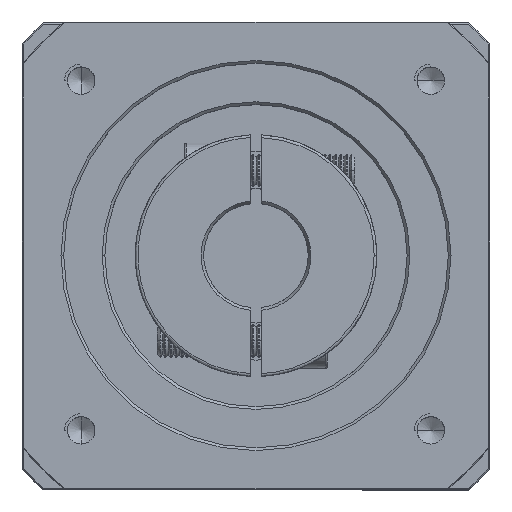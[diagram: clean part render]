
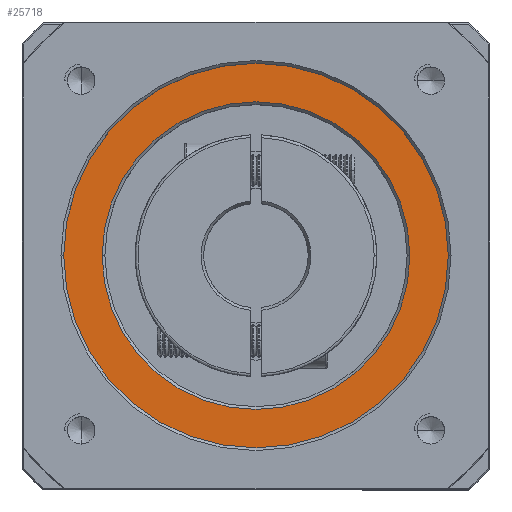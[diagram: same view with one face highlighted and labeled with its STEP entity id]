
A CAD part, top view. The second image highlights one B-rep face of the part: STEP entity #25718.
In plain terms, the highlighted planar face has unit normal (0, 0, 1).
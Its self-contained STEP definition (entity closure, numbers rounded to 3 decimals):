
#196 = ORIENTED_EDGE ( 'NONE', *, *, #50385, .T. ) ;
#872 = DIRECTION ( 'NONE',  ( 1., 0., 0. ) ) ;
#2071 = DIRECTION ( 'NONE',  ( 0., 0., 1. ) ) ;
#4819 = ORIENTED_EDGE ( 'NONE', *, *, #24245, .T. ) ;
#6108 = DIRECTION ( 'NONE',  ( 1., 0., 0. ) ) ;
#7117 = FACE_OUTER_BOUND ( 'NONE', #93286, .T. ) ;
#13321 = CARTESIAN_POINT ( 'NONE',  ( -120.814, 19.007, 12.467 ) ) ;
#13842 = EDGE_CURVE ( 'NONE', #93408, #50493, #73103, .T. ) ;
#17184 = DIRECTION ( 'NONE',  ( 0., 0., 1. ) ) ;
#18647 = CARTESIAN_POINT ( 'NONE',  ( -64.814, 19.007, 12.467 ) ) ;
#21912 = CIRCLE ( 'NONE', #83009, 35. ) ;
#24245 = EDGE_CURVE ( 'NONE', #80121, #89385, #45973, .T. ) ;
#24520 = CIRCLE ( 'NONE', #79282, 28. ) ;
#25718 = ADVANCED_FACE ( 'NONE', ( #7117, #53485 ), #85959, .T. ) ;
#45973 = CIRCLE ( 'NONE', #54529, 28. ) ;
#46375 = CARTESIAN_POINT ( 'NONE',  ( -92.814, 19.007, 12.467 ) ) ;
#50385 = EDGE_CURVE ( 'NONE', #89385, #80121, #24520, .T. ) ;
#50493 = VERTEX_POINT ( 'NONE', #99128 ) ;
#51940 = EDGE_CURVE ( 'NONE', #50493, #93408, #21912, .T. ) ;
#52789 = CARTESIAN_POINT ( 'NONE',  ( -127.814, 19.007, 12.467 ) ) ;
#53153 = DIRECTION ( 'NONE',  ( 0., 0., 1. ) ) ;
#53485 = FACE_BOUND ( 'NONE', #107911, .T. ) ;
#54320 = CARTESIAN_POINT ( 'NONE',  ( -92.814, 19.007, 12.467 ) ) ;
#54529 = AXIS2_PLACEMENT_3D ( 'NONE', #109388, #58265, #6108 ) ;
#55074 = DIRECTION ( 'NONE',  ( 1., 0., 0. ) ) ;
#58265 = DIRECTION ( 'NONE',  ( 0., 0., -1. ) ) ;
#62939 = DIRECTION ( 'NONE',  ( 1., 0., 0. ) ) ;
#69137 = CARTESIAN_POINT ( 'NONE',  ( -92.814, 19.007, 12.467 ) ) ;
#73103 = CIRCLE ( 'NONE', #81030, 35. ) ;
#77801 = DIRECTION ( 'NONE',  ( 1., 0., 0. ) ) ;
#79282 = AXIS2_PLACEMENT_3D ( 'NONE', #46375, #106208, #55074 ) ;
#80121 = VERTEX_POINT ( 'NONE', #13321 ) ;
#81030 = AXIS2_PLACEMENT_3D ( 'NONE', #54320, #2071, #62939 ) ;
#83009 = AXIS2_PLACEMENT_3D ( 'NONE', #104335, #53153, #872 ) ;
#83418 = AXIS2_PLACEMENT_3D ( 'NONE', #69137, #17184, #77801 ) ;
#85959 = PLANE ( 'NONE',  #83418 ) ;
#89385 = VERTEX_POINT ( 'NONE', #18647 ) ;
#93286 = EDGE_LOOP ( 'NONE', ( #97434, #105611 ) ) ;
#93408 = VERTEX_POINT ( 'NONE', #52789 ) ;
#97434 = ORIENTED_EDGE ( 'NONE', *, *, #51940, .T. ) ;
#99128 = CARTESIAN_POINT ( 'NONE',  ( -57.814, 19.007, 12.467 ) ) ;
#104335 = CARTESIAN_POINT ( 'NONE',  ( -92.814, 19.007, 12.467 ) ) ;
#105611 = ORIENTED_EDGE ( 'NONE', *, *, #13842, .T. ) ;
#106208 = DIRECTION ( 'NONE',  ( 0., 0., -1. ) ) ;
#107911 = EDGE_LOOP ( 'NONE', ( #196, #4819 ) ) ;
#109388 = CARTESIAN_POINT ( 'NONE',  ( -92.814, 19.007, 12.467 ) ) ;
